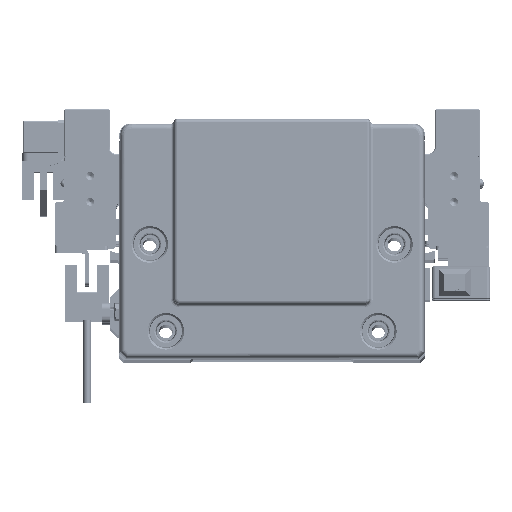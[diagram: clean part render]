
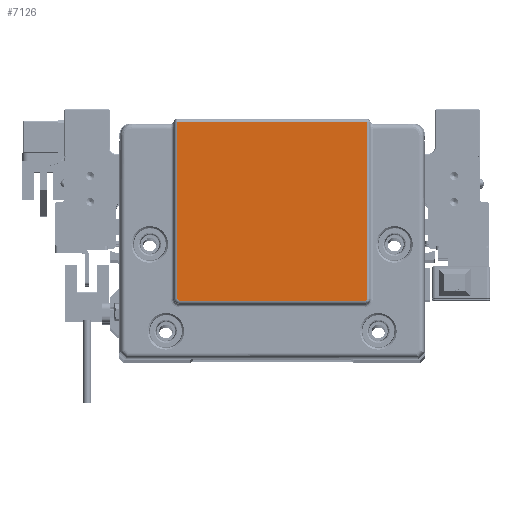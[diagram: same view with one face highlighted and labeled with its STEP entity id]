
A CAD part, top view. The second image highlights one B-rep face of the part: STEP entity #7126.
In plain terms, the highlighted planar face has unit normal (0, 0, 1) as drawn and (0, 0, -1) by its records, which use the part's own axes.
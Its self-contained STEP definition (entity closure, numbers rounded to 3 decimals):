
#952 = B_SPLINE_CURVE_WITH_KNOTS ( 'NONE', 3,
 ( #74421, #26362, #69343, #50749, #26740, #32527, #10056, #61967, #50001, #14712, #44940, #51531, #10457, #50379, #68970, #15477, #27512, #34064, #56179, #20528, #51150, #20906, #75214, #74041, #33282 ),
 .UNSPECIFIED., .F., .F.,
 ( 4, 2, 1, 1, 1, 1, 2, 2, 2, 2, 2, 1, 2, 2, 4 ),
 ( 0., 0.25, 0.375, 0.437, 0.469, 0.484, 0.492, 0.5, 0.625, 0.687, 0.719, 0.734, 0.742, 0.75, 1. ),
 .UNSPECIFIED. ) ;
#3623 = VERTEX_POINT ( 'NONE', #37525 ) ;
#5491 = CARTESIAN_POINT ( 'NONE',  ( 29.288, -19.086, -2. ) ) ;
#6519 = VECTOR ( 'NONE', #25928, 1000. ) ;
#7126 = ADVANCED_FACE ( 'NONE', ( #23817 ), #36207, .T. ) ;
#7375 = ORIENTED_EDGE ( 'NONE', *, *, #76346, .F. ) ;
#8110 = LINE ( 'NONE', #74005, #6519 ) ;
#9244 = EDGE_LOOP ( 'NONE', ( #21863, #18426, #21270, #25978, #68673, #7375 ) ) ;
#10056 = CARTESIAN_POINT ( 'NONE',  ( -29.308, -19.065, -2. ) ) ;
#10457 = CARTESIAN_POINT ( 'NONE',  ( -29.266, -19.109, -2. ) ) ;
#11686 = CARTESIAN_POINT ( 'NONE',  ( 29.158, -19.18, -2. ) ) ;
#12062 = CARTESIAN_POINT ( 'NONE',  ( 29.391, -18.939, -2. ) ) ;
#12826 = CARTESIAN_POINT ( 'NONE',  ( 29.435, -18.785, -2. ) ) ;
#14121 = VECTOR ( 'NONE', #45256, 1000. ) ;
#14310 = VERTEX_POINT ( 'NONE', #73495 ) ;
#14626 = CARTESIAN_POINT ( 'NONE',  ( 29.427, -18.849, -2. ) ) ;
#14712 = CARTESIAN_POINT ( 'NONE',  ( -29.292, -19.083, -2. ) ) ;
#15208 = EDGE_CURVE ( 'NONE', #50655, #14310, #26300, .T. ) ;
#15477 = CARTESIAN_POINT ( 'NONE',  ( -29.18, -19.169, -2. ) ) ;
#17475 = CARTESIAN_POINT ( 'NONE',  ( 29.354, -19.006, -2. ) ) ;
#18367 = CARTESIAN_POINT ( 'NONE',  ( 0., 0., -2. ) ) ;
#18426 = ORIENTED_EDGE ( 'NONE', *, *, #15208, .T. ) ;
#18609 = CARTESIAN_POINT ( 'NONE',  ( 29.395, -18.93, -2. ) ) ;
#20528 = CARTESIAN_POINT ( 'NONE',  ( -29.133, -19.192, -2. ) ) ;
#20906 = CARTESIAN_POINT ( 'NONE',  ( -29.121, -19.196, -2. ) ) ;
#21205 = CARTESIAN_POINT ( 'NONE',  ( 29.399, -18.919, -2. ) ) ;
#21270 = ORIENTED_EDGE ( 'NONE', *, *, #54784, .T. ) ;
#21633 = EDGE_CURVE ( 'NONE', #60817, #3623, #56155, .T. ) ;
#21863 = ORIENTED_EDGE ( 'NONE', *, *, #51421, .T. ) ;
#22540 = CARTESIAN_POINT ( 'NONE',  ( 29.296, -19.079, -2. ) ) ;
#23691 = CARTESIAN_POINT ( 'NONE',  ( 29.343, -19.023, -2. ) ) ;
#23817 = FACE_OUTER_BOUND ( 'NONE', #9244, .T. ) ;
#24005 = EDGE_CURVE ( 'NONE', #60817, #40629, #52763, .T. ) ;
#24080 = CARTESIAN_POINT ( 'NONE',  ( 29.268, -19.105, -2. ) ) ;
#25928 = DIRECTION ( 'NONE',  ( 0., -1., 0. ) ) ;
#25978 = ORIENTED_EDGE ( 'NONE', *, *, #21633, .F. ) ;
#26300 = LINE ( 'NONE', #67749, #14121 ) ;
#26362 = CARTESIAN_POINT ( 'NONE',  ( -29.435, -18.801, -2. ) ) ;
#26740 = CARTESIAN_POINT ( 'NONE',  ( -29.36, -18.998, -2. ) ) ;
#27105 = VECTOR ( 'NONE', #64364, 1000. ) ;
#27512 = CARTESIAN_POINT ( 'NONE',  ( -29.169, -19.175, -2. ) ) ;
#30002 = DIRECTION ( 'NONE',  ( -1., 0., 0. ) ) ;
#30635 = CARTESIAN_POINT ( 'NONE',  ( 29.435, -18.732, -2. ) ) ;
#31024 = CARTESIAN_POINT ( 'NONE',  ( -28.935, -19.232, -2. ) ) ;
#32527 = CARTESIAN_POINT ( 'NONE',  ( -29.326, -19.044, -2. ) ) ;
#33282 = CARTESIAN_POINT ( 'NONE',  ( -28.935, -19.232, -2. ) ) ;
#34064 = CARTESIAN_POINT ( 'NONE',  ( -29.151, -19.183, -2. ) ) ;
#34608 = LINE ( 'NONE', #35010, #41943 ) ;
#35010 = CARTESIAN_POINT ( 'NONE',  ( -29.435, 0., -2. ) ) ;
#36207 = PLANE ( 'NONE',  #57575 ) ;
#37525 = CARTESIAN_POINT ( 'NONE',  ( 29.435, -18.732, -2. ) ) ;
#40629 = VERTEX_POINT ( 'NONE', #31024 ) ;
#41123 = CARTESIAN_POINT ( 'NONE',  ( 29.378, -18.966, -2. ) ) ;
#41505 = CARTESIAN_POINT ( 'NONE',  ( 29.069, -19.218, -2. ) ) ;
#41943 = VECTOR ( 'NONE', #47431, 1000. ) ;
#44417 = CARTESIAN_POINT ( 'NONE',  ( -29.435, -18.732, -2. ) ) ;
#44940 = CARTESIAN_POINT ( 'NONE',  ( -29.289, -19.086, -2. ) ) ;
#45256 = DIRECTION ( 'NONE',  ( 1., 0., 0. ) ) ;
#46182 = CARTESIAN_POINT ( 'NONE',  ( 29.312, -19.063, -2. ) ) ;
#46946 = CARTESIAN_POINT ( 'NONE',  ( 29.201, -19.157, -2. ) ) ;
#47431 = DIRECTION ( 'NONE',  ( 0., 1., 0. ) ) ;
#47469 = DIRECTION ( 'NONE',  ( 0., 0., -1. ) ) ;
#50001 = CARTESIAN_POINT ( 'NONE',  ( -29.294, -19.08, -2. ) ) ;
#50379 = CARTESIAN_POINT ( 'NONE',  ( -29.226, -19.14, -2. ) ) ;
#50655 = VERTEX_POINT ( 'NONE', #60043 ) ;
#50749 = CARTESIAN_POINT ( 'NONE',  ( -29.383, -18.956, -2. ) ) ;
#51150 = CARTESIAN_POINT ( 'NONE',  ( -29.126, -19.195, -2. ) ) ;
#51421 = EDGE_CURVE ( 'NONE', #74295, #50655, #34608, .T. ) ;
#51531 = CARTESIAN_POINT ( 'NONE',  ( -29.282, -19.093, -2. ) ) ;
#52388 = CARTESIAN_POINT ( 'NONE',  ( 0., -19.232, -2. ) ) ;
#52763 = LINE ( 'NONE', #52388, #27105 ) ;
#54784 = EDGE_CURVE ( 'NONE', #14310, #3623, #8110, .T. ) ;
#56155 = B_SPLINE_CURVE_WITH_KNOTS ( 'NONE', 3,
 ( #70211, #64362, #41505, #11686, #46946, #70582, #24080, #58547, #71361, #65518, #5491, #22540, #46182, #23691, #17475, #69827, #41123, #65142, #12062, #18609, #68491, #21205, #14626, #12826, #30635 ),
 .UNSPECIFIED., .F., .F.,
 ( 4, 2, 1, 1, 1, 1, 2, 2, 2, 2, 2, 1, 2, 2, 4 ),
 ( 0., 0.25, 0.375, 0.438, 0.469, 0.484, 0.492, 0.5, 0.625, 0.688, 0.719, 0.734, 0.742, 0.75, 1. ),
 .UNSPECIFIED. ) ;
#56179 = CARTESIAN_POINT ( 'NONE',  ( -29.142, -19.188, -2. ) ) ;
#57575 = AXIS2_PLACEMENT_3D ( 'NONE', #18367, #47469, #30002 ) ;
#58547 = CARTESIAN_POINT ( 'NONE',  ( 29.279, -19.096, -2. ) ) ;
#60043 = CARTESIAN_POINT ( 'NONE',  ( -29.435, 36.185, -2. ) ) ;
#60817 = VERTEX_POINT ( 'NONE', #71295 ) ;
#61967 = CARTESIAN_POINT ( 'NONE',  ( -29.299, -19.076, -2. ) ) ;
#64362 = CARTESIAN_POINT ( 'NONE',  ( 29.003, -19.232, -2. ) ) ;
#64364 = DIRECTION ( 'NONE',  ( -1., 0., 0. ) ) ;
#65142 = CARTESIAN_POINT ( 'NONE',  ( 29.386, -18.948, -2. ) ) ;
#65518 = CARTESIAN_POINT ( 'NONE',  ( 29.286, -19.089, -2. ) ) ;
#67749 = CARTESIAN_POINT ( 'NONE',  ( 0., 36.185, -2. ) ) ;
#68491 = CARTESIAN_POINT ( 'NONE',  ( 29.397, -18.923, -2. ) ) ;
#68673 = ORIENTED_EDGE ( 'NONE', *, *, #24005, .T. ) ;
#68970 = CARTESIAN_POINT ( 'NONE',  ( -29.209, -19.151, -2. ) ) ;
#69343 = CARTESIAN_POINT ( 'NONE',  ( -29.421, -18.866, -2. ) ) ;
#69827 = CARTESIAN_POINT ( 'NONE',  ( 29.372, -18.977, -2. ) ) ;
#70211 = CARTESIAN_POINT ( 'NONE',  ( 28.935, -19.232, -2. ) ) ;
#70582 = CARTESIAN_POINT ( 'NONE',  ( 29.247, -19.124, -2. ) ) ;
#71295 = CARTESIAN_POINT ( 'NONE',  ( 28.935, -19.232, -2. ) ) ;
#71361 = CARTESIAN_POINT ( 'NONE',  ( 29.283, -19.092, -2. ) ) ;
#73495 = CARTESIAN_POINT ( 'NONE',  ( 29.435, 36.185, -2. ) ) ;
#74005 = CARTESIAN_POINT ( 'NONE',  ( 29.435, 0., -2. ) ) ;
#74041 = CARTESIAN_POINT ( 'NONE',  ( -28.988, -19.232, -2. ) ) ;
#74295 = VERTEX_POINT ( 'NONE', #44417 ) ;
#74421 = CARTESIAN_POINT ( 'NONE',  ( -29.435, -18.732, -2. ) ) ;
#75214 = CARTESIAN_POINT ( 'NONE',  ( -29.051, -19.224, -2. ) ) ;
#76346 = EDGE_CURVE ( 'NONE', #74295, #40629, #952, .T. ) ;
